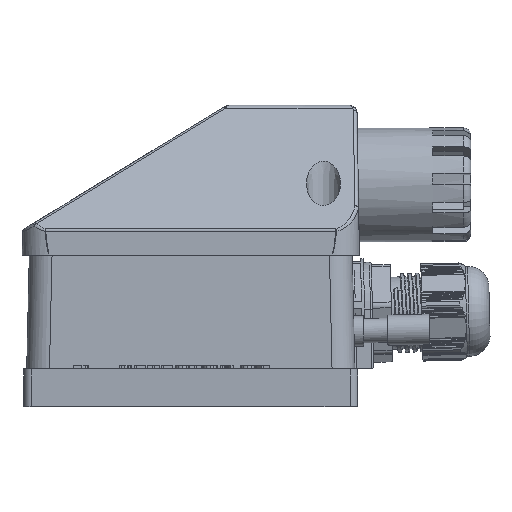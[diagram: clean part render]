
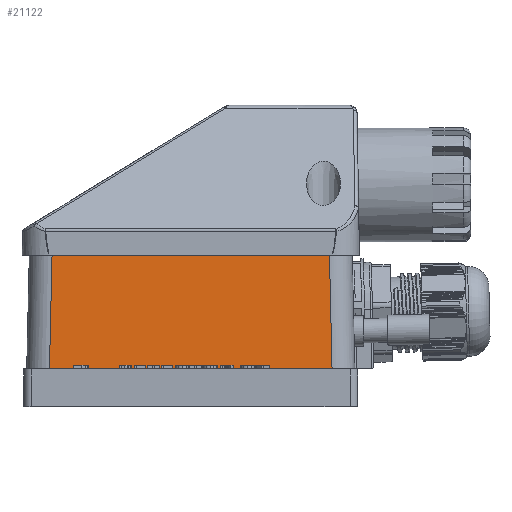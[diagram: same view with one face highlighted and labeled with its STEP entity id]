
A CAD part, left-side view. The second image highlights one B-rep face of the part: STEP entity #21122.
In plain terms, the highlighted planar face has unit normal (-1, 0, 0.023) as drawn and (-1, 0.023, 0) by its records, which use the part's own axes.
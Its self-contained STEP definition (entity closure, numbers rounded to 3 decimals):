
#452=PLANE('',#22488);
#1107=LINE('',#29732,#2946);
#1108=LINE('',#29734,#2947);
#1109=LINE('',#29736,#2948);
#1110=LINE('',#29737,#2949);
#2946=VECTOR('',#24349,1000.);
#2947=VECTOR('',#24350,1000.);
#2948=VECTOR('',#24351,1000.);
#2949=VECTOR('',#24352,1000.);
#5936=FACE_OUTER_BOUND('',#7166,.T.);
#7166=EDGE_LOOP('',(#14705,#14706,#14707,#14708));
#9082=VERTEX_POINT('',#29228);
#9235=VERTEX_POINT('',#29731);
#9236=VERTEX_POINT('',#29733);
#9237=VERTEX_POINT('',#29735);
#11392=EDGE_CURVE('',#9235,#9082,#1107,.T.);
#11393=EDGE_CURVE('',#9082,#9236,#1108,.T.);
#11394=EDGE_CURVE('',#9236,#9237,#1109,.T.);
#11395=EDGE_CURVE('',#9237,#9235,#1110,.T.);
#14705=ORIENTED_EDGE('',*,*,#11392,.T.);
#14706=ORIENTED_EDGE('',*,*,#11393,.T.);
#14707=ORIENTED_EDGE('',*,*,#11394,.T.);
#14708=ORIENTED_EDGE('',*,*,#11395,.T.);
#21122=ADVANCED_FACE('',(#5936),#452,.T.);
#22488=AXIS2_PLACEMENT_3D('',#29730,#24347,#24348);
#24347=DIRECTION('center_axis',(-1.,0.023,0.));
#24348=DIRECTION('ref_axis',(-0.023,-1.,0.));
#24349=DIRECTION('',(0.023,0.999,-0.023));
#24350=DIRECTION('',(0.,0.,-1.));
#24351=DIRECTION('',(-0.023,-0.999,-0.023));
#24352=DIRECTION('',(0.,0.,1.));
#29228=CARTESIAN_POINT('',(0.692,30.511,-6.691));
#29730=CARTESIAN_POINT('Origin',(0.,0.,-86.5));
#29731=CARTESIAN_POINT('',(0.,0.,-5.998));
#29732=CARTESIAN_POINT('',(0.041,1.825,-6.04));
#29733=CARTESIAN_POINT('',(0.692,30.511,-79.809));
#29734=CARTESIAN_POINT('',(0.692,30.511,-79.798));
#29735=CARTESIAN_POINT('',(0.,0.,-80.502));
#29736=CARTESIAN_POINT('',(-0.003,-0.136,-80.505));
#29737=CARTESIAN_POINT('',(0.,0.,-86.5));
